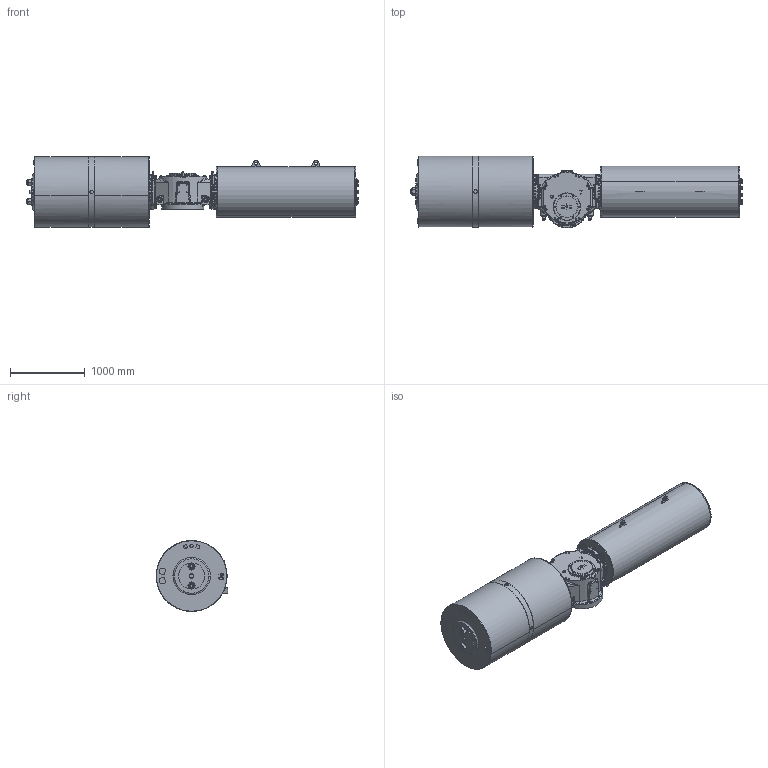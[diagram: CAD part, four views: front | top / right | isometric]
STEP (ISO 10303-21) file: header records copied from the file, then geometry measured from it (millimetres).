
FILE_DESCRIPTION (( 'STEP AP203' ), '1' );
FILE_NAME ('VTS7-900D-SR-FC.STEP', '2023-01-01T10:08:44', ( '' ), ( '' ), 'SwSTEP 2.0', 'SolidWorks 2020', '' );
FILE_SCHEMA (( 'CONFIG_CONTROL_DESIGN' ));
Length unit declared in the file: millimetre
Products named in the file (1): VTS7-900D-SR-FC
Bounding box: 4439.22 x 956.5 x 947 mm (x, y, z)
Volume: 1959454020.8 mm3; surface area: 14462504.3 mm2
Topology: 54 solids, 54 shells, 3442 faces, 8347 edges, 5096 vertices
Faces by surface type: cylinder 1166, plane 1089, cone 810, bspline 360, torus 17
Entity records: 129604 total; most frequent: CARTESIAN_POINT 51294, DIRECTION 16483, ORIENTED_EDGE 16414, EDGE_CURVE 8207, AXIS2_PLACEMENT_3D 6653, VERTEX_POINT 5096, EDGE_LOOP 3789, CIRCLE 3570
